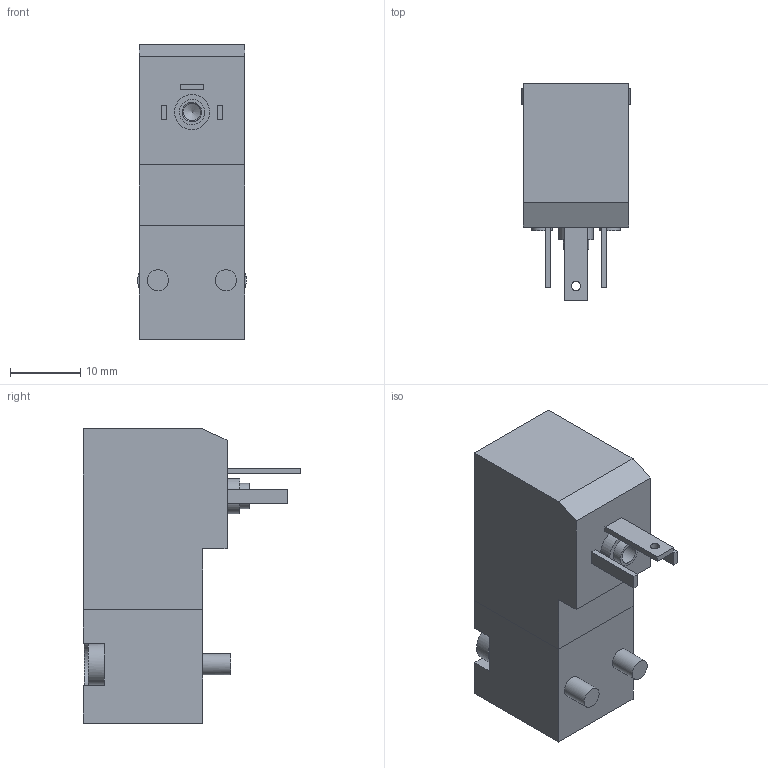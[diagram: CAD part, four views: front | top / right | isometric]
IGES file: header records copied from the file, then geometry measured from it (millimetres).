
Global section: file name: N3##_R1#-2; native system: Autodesk Inventor 2014; preprocessor: unknown; author: A. Manieri; organization: Pneumax S.p.A.; date: 20160908.141709; units: millimetre
Bounding box: 15.5 x 31 x 42 mm (x, y, z)
Volume: 11603.2 mm3; surface area: 3933.5 mm2
Topology: 1 solids, 1 shells, 90 faces, 228 edges, 150 vertices
Faces by surface type: bspline 90
